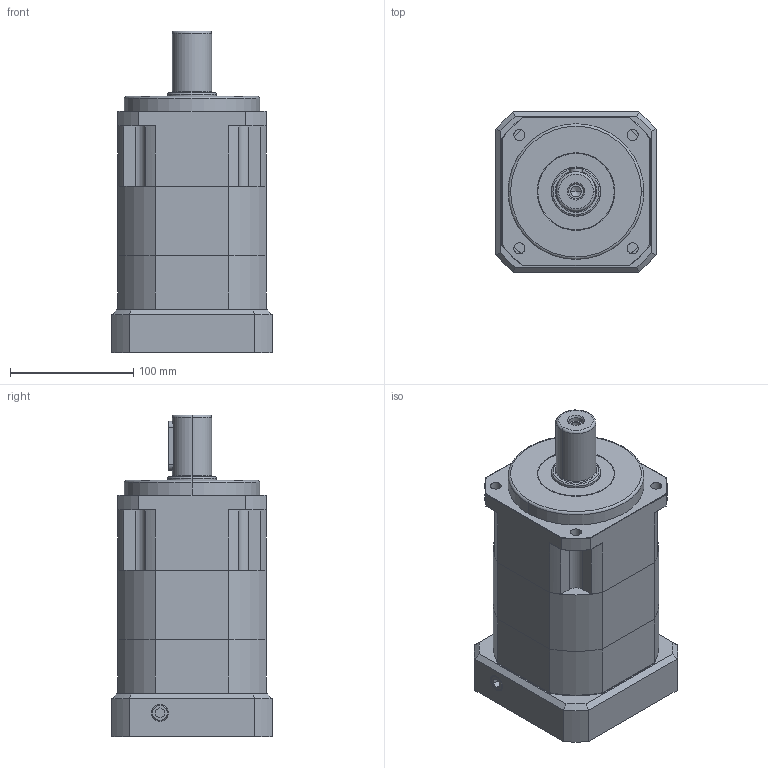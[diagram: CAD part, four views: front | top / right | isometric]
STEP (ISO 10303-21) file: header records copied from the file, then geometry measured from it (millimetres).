
FILE_DESCRIPTION (( 'STEP AP203' ), '1' );
FILE_NAME ('SB120A-2-110M8-3.STEP', '2011-07-11T08:48:52', ( '1' ), ( '' ), 'SwSTEP 2.0', 'SolidWorks 2011', '' );
FILE_SCHEMA (( 'CONFIG_CONTROL_DESIGN' ));
Length unit declared in the file: millimetre
Products named in the file (1): SB120A-2-110M8-3
Bounding box: 130 x 130 x 261 mm (x, y, z)
Volume: 2185727.8 mm3; surface area: 297954.1 mm2
Topology: 17 solids, 17 shells, 680 faces, 1651 edges, 1028 vertices
Faces by surface type: plane 271, cylinder 242, cone 107, torus 33, bspline 25, sphere 2
Entity records: 21868 total; most frequent: CARTESIAN_POINT 5779, DIRECTION 3443, ORIENTED_EDGE 3244, EDGE_CURVE 1622, AXIS2_PLACEMENT_3D 1315, VERTEX_POINT 1027, LINE 813, VECTOR 813
